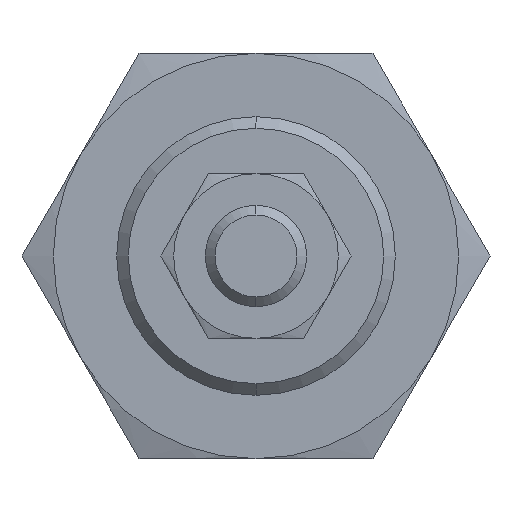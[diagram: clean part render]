
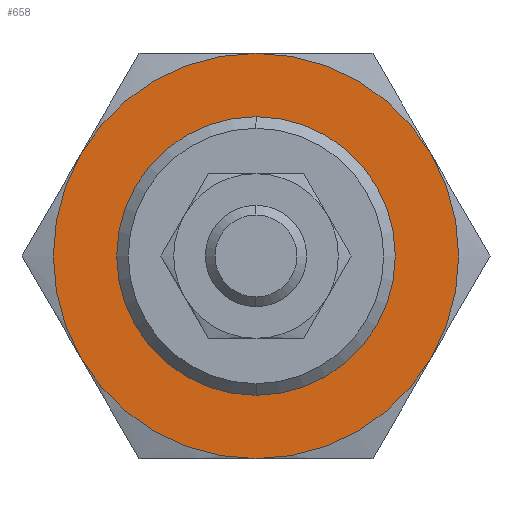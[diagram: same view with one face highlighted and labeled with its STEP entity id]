
A CAD part, left-side view. The second image highlights one B-rep face of the part: STEP entity #658.
In plain terms, the highlighted planar face has unit normal (-1, 0, 0).
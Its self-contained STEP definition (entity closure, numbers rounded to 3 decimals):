
#74 = DIRECTION ( 'NONE',  ( 1., 0., 0. ) ) ;
#199 = VERTEX_POINT ( 'NONE', #1425 ) ;
#215 = FACE_OUTER_BOUND ( 'NONE', #575, .T. ) ;
#355 = EDGE_CURVE ( 'NONE', #1784, #1628, #3050, .T. ) ;
#400 = VERTEX_POINT ( 'NONE', #1670 ) ;
#511 = AXIS2_PLACEMENT_3D ( 'NONE', #1591, #3552, #3883 ) ;
#518 = AXIS2_PLACEMENT_3D ( 'NONE', #1737, #74, #2680 ) ;
#575 = EDGE_LOOP ( 'NONE', ( #847, #2076, #3788, #3277, #2659, #3733 ) ) ;
#605 = DIRECTION ( 'NONE',  ( 1., 0., 0. ) ) ;
#658 = ADVANCED_FACE ( 'NONE', ( #215, #3776 ), #1531, .T. ) ;
#730 = VERTEX_POINT ( 'NONE', #1307 ) ;
#837 = DIRECTION ( 'NONE',  ( -1., 0., 0. ) ) ;
#847 = ORIENTED_EDGE ( 'NONE', *, *, #355, .F. ) ;
#925 = EDGE_CURVE ( 'NONE', #400, #2927, #4090, .T. ) ;
#927 = EDGE_LOOP ( 'NONE', ( #2466, #1298 ) ) ;
#988 = DIRECTION ( 'NONE',  ( 1., 0., 0. ) ) ;
#1012 = CIRCLE ( 'NONE', #4099, 11. ) ;
#1194 = VERTEX_POINT ( 'NONE', #2410 ) ;
#1195 = AXIS2_PLACEMENT_3D ( 'NONE', #1847, #2567, #3852 ) ;
#1217 = CIRCLE ( 'NONE', #4166, 16. ) ;
#1298 = ORIENTED_EDGE ( 'NONE', *, *, #3511, .T. ) ;
#1307 = CARTESIAN_POINT ( 'NONE',  ( -16.5, -13.856, 8. ) ) ;
#1425 = CARTESIAN_POINT ( 'NONE',  ( -16.5, -13.856, -8. ) ) ;
#1530 = VERTEX_POINT ( 'NONE', #2009 ) ;
#1531 = PLANE ( 'NONE',  #3738 ) ;
#1551 = CARTESIAN_POINT ( 'NONE',  ( -16.5, 16., 0. ) ) ;
#1591 = CARTESIAN_POINT ( 'NONE',  ( -16.5, 0., 0. ) ) ;
#1594 = DIRECTION ( 'NONE',  ( 0., 0., -1. ) ) ;
#1614 = DIRECTION ( 'NONE',  ( 1., 0., 0. ) ) ;
#1628 = VERTEX_POINT ( 'NONE', #2694 ) ;
#1670 = CARTESIAN_POINT ( 'NONE',  ( -16.5, 0., 11. ) ) ;
#1703 = EDGE_CURVE ( 'NONE', #199, #1530, #3039, .T. ) ;
#1737 = CARTESIAN_POINT ( 'NONE',  ( -16.5, 0., 0. ) ) ;
#1784 = VERTEX_POINT ( 'NONE', #2651 ) ;
#1847 = CARTESIAN_POINT ( 'NONE',  ( -16.5, 0., 0. ) ) ;
#1921 = DIRECTION ( 'NONE',  ( 1., 0., 0. ) ) ;
#1969 = CIRCLE ( 'NONE', #3195, 16. ) ;
#2009 = CARTESIAN_POINT ( 'NONE',  ( -16.5, 0., -16. ) ) ;
#2076 = ORIENTED_EDGE ( 'NONE', *, *, #3513, .F. ) ;
#2410 = CARTESIAN_POINT ( 'NONE',  ( -16.5, 0., 16. ) ) ;
#2466 = ORIENTED_EDGE ( 'NONE', *, *, #925, .T. ) ;
#2478 = CARTESIAN_POINT ( 'NONE',  ( -16.5, 0., 0. ) ) ;
#2524 = AXIS2_PLACEMENT_3D ( 'NONE', #2843, #1921, #4133 ) ;
#2567 = DIRECTION ( 'NONE',  ( 1., 0., 0. ) ) ;
#2585 = CARTESIAN_POINT ( 'NONE',  ( -16.5, 0., 0. ) ) ;
#2641 = DIRECTION ( 'NONE',  ( 0., 0., -1. ) ) ;
#2651 = CARTESIAN_POINT ( 'NONE',  ( -16.5, 13.856, -8. ) ) ;
#2659 = ORIENTED_EDGE ( 'NONE', *, *, #2662, .F. ) ;
#2662 = EDGE_CURVE ( 'NONE', #1194, #730, #1969, .T. ) ;
#2680 = DIRECTION ( 'NONE',  ( 0., 0., -1. ) ) ;
#2692 = DIRECTION ( 'NONE',  ( 1., 0., 0. ) ) ;
#2694 = CARTESIAN_POINT ( 'NONE',  ( -16.5, 13.856, 8. ) ) ;
#2843 = CARTESIAN_POINT ( 'NONE',  ( -16.5, 0., 0. ) ) ;
#2902 = DIRECTION ( 'NONE',  ( 0., 0., -1. ) ) ;
#2927 = VERTEX_POINT ( 'NONE', #3724 ) ;
#3039 = CIRCLE ( 'NONE', #1195, 16. ) ;
#3050 = CIRCLE ( 'NONE', #511, 16. ) ;
#3083 = DIRECTION ( 'NONE',  ( 0., 0., -1. ) ) ;
#3195 = AXIS2_PLACEMENT_3D ( 'NONE', #3262, #605, #1594 ) ;
#3196 = EDGE_CURVE ( 'NONE', #730, #199, #3599, .T. ) ;
#3262 = CARTESIAN_POINT ( 'NONE',  ( -16.5, 0., 0. ) ) ;
#3277 = ORIENTED_EDGE ( 'NONE', *, *, #3196, .F. ) ;
#3353 = EDGE_CURVE ( 'NONE', #1628, #1194, #1217, .T. ) ;
#3444 = DIRECTION ( 'NONE',  ( 0., 0., 1. ) ) ;
#3511 = EDGE_CURVE ( 'NONE', #2927, #400, #1012, .T. ) ;
#3513 = EDGE_CURVE ( 'NONE', #1530, #1784, #3954, .T. ) ;
#3552 = DIRECTION ( 'NONE',  ( 1., 0., 0. ) ) ;
#3599 = CIRCLE ( 'NONE', #2524, 16. ) ;
#3646 = CARTESIAN_POINT ( 'NONE',  ( -16.5, 0., 0. ) ) ;
#3724 = CARTESIAN_POINT ( 'NONE',  ( -16.5, 0., -11. ) ) ;
#3733 = ORIENTED_EDGE ( 'NONE', *, *, #3353, .F. ) ;
#3738 = AXIS2_PLACEMENT_3D ( 'NONE', #1551, #837, #3444 ) ;
#3776 = FACE_BOUND ( 'NONE', #927, .T. ) ;
#3788 = ORIENTED_EDGE ( 'NONE', *, *, #1703, .F. ) ;
#3852 = DIRECTION ( 'NONE',  ( 0., 0., -1. ) ) ;
#3883 = DIRECTION ( 'NONE',  ( 0., 0., -1. ) ) ;
#3954 = CIRCLE ( 'NONE', #4028, 16. ) ;
#4028 = AXIS2_PLACEMENT_3D ( 'NONE', #2585, #1614, #2902 ) ;
#4090 = CIRCLE ( 'NONE', #518, 11. ) ;
#4099 = AXIS2_PLACEMENT_3D ( 'NONE', #2478, #988, #2641 ) ;
#4133 = DIRECTION ( 'NONE',  ( 0., 0., -1. ) ) ;
#4166 = AXIS2_PLACEMENT_3D ( 'NONE', #3646, #2692, #3083 ) ;
